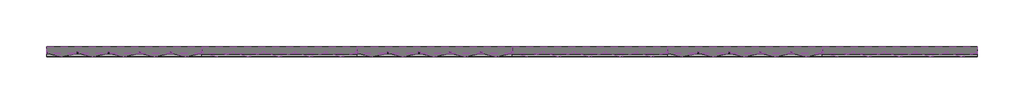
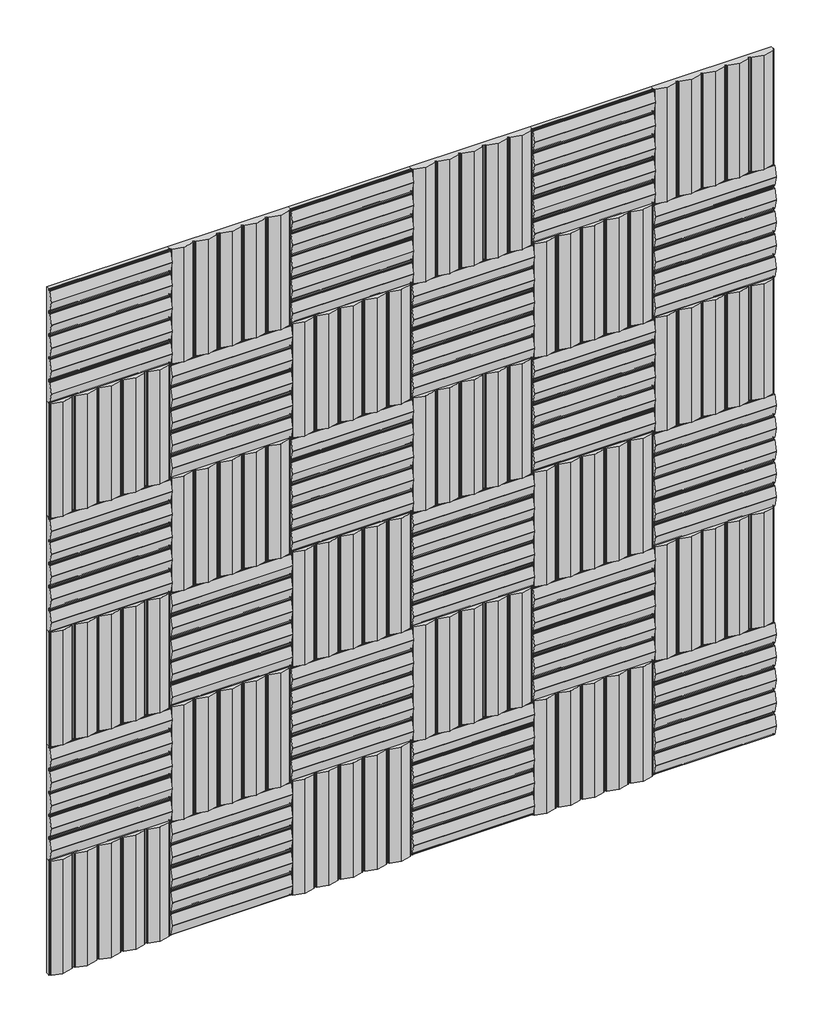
# One storey: 36 proxies.
"""IFC4 building model written with IfcOpenShell, lengths in millimetres."""

from ifc_helpers import new_model, si_unit, origin, place, context, project, spatial, transform, mapped, element, save
from components import specialty_equipment_52cbe585

model = new_model("IFC4")

# Units and contexts
model_context = context("Model", 3, world=origin())
ifc_project = project(units=[si_unit("LENGTHUNIT", "METRE", prefix="MILLI")], contexts=[model_context])

# Site, building, storey
site = spatial("IfcSite", under=ifc_project)
building = spatial("IfcBuilding", under=site)
storey = spatial("IfcBuildingStorey", under=building, Name="Nível 1", Elevation=0.0)

# Proxies
placement = place(None, origin())
specialty_equipment_shape = specialty_equipment_52cbe585(model_context)
element("IfcBuildingElementProxy", 1, Name="Spinneybeck_Porto 2 : Porto 2", ObjectType="Spinneybeck_Porto 2 : Porto 2", at=placement, inside=storey, context=model_context, shape_type="MappedRepresentation", body=[
    mapped(specialty_equipment_shape, transform((-6208.1950363, 552.5357437, 203.2), x_axis=(1.0, 0.0, 0.0), y_axis=(0.0, 0.0, 1.0), z_axis=(0.0, -1.0, 0.0))),
])
element("IfcBuildingElementProxy", 2, Name="Spinneybeck_Porto 2 : Porto 2", ObjectType="Spinneybeck_Porto 2 : Porto 2", at=placement, inside=storey, context=model_context, shape_type="MappedRepresentation", body=[
    mapped(specialty_equipment_shape, transform((-6208.1950363, 552.5357437, 609.6), x_axis=(0.0, 0.0, 1.0), y_axis=(-1.0, 0.0, 0.0), z_axis=(0.0, -1.0, 0.0))),
])
element("IfcBuildingElementProxy", 3, Name="Spinneybeck_Porto 2 : Porto 2", ObjectType="Spinneybeck_Porto 2 : Porto 2", at=placement, inside=storey, context=model_context, shape_type="MappedRepresentation", body=[
    mapped(specialty_equipment_shape, transform((-6208.1950363, 552.5357437, 1016.0), x_axis=(1.0, 0.0, 0.0), y_axis=(0.0, 0.0, 1.0), z_axis=(0.0, -1.0, 0.0))),
])
element("IfcBuildingElementProxy", 4, Name="Spinneybeck_Porto 2 : Porto 2", ObjectType="Spinneybeck_Porto 2 : Porto 2", at=placement, inside=storey, context=model_context, shape_type="MappedRepresentation", body=[
    mapped(specialty_equipment_shape, transform((-6208.1950363, 552.5357437, 1422.4), x_axis=(0.0, 0.0, 1.0), y_axis=(-1.0, 0.0, 0.0), z_axis=(0.0, -1.0, 0.0))),
])
element("IfcBuildingElementProxy", 5, Name="Spinneybeck_Porto 2 : Porto 2", ObjectType="Spinneybeck_Porto 2 : Porto 2", at=placement, inside=storey, context=model_context, shape_type="MappedRepresentation", body=[
    mapped(specialty_equipment_shape, transform((-6208.1950363, 552.5357437, 1828.8), x_axis=(1.0, 0.0, 0.0), y_axis=(0.0, 0.0, 1.0), z_axis=(0.0, -1.0, 0.0))),
])
element("IfcBuildingElementProxy", 6, Name="Spinneybeck_Porto 2 : Porto 2", ObjectType="Spinneybeck_Porto 2 : Porto 2", at=placement, inside=storey, context=model_context, shape_type="MappedRepresentation", body=[
    mapped(specialty_equipment_shape, transform((-6208.1950363, 552.5357437, 2235.2), x_axis=(0.0, 0.0, 1.0), y_axis=(-1.0, 0.0, 0.0), z_axis=(0.0, -1.0, 0.0))),
])
element("IfcBuildingElementProxy", 7, Name="Spinneybeck_Porto 2 : Porto 2", ObjectType="Spinneybeck_Porto 2 : Porto 2", at=placement, inside=storey, context=model_context, shape_type="MappedRepresentation", body=[
    mapped(specialty_equipment_shape, transform((-5801.7950363, 552.5357437, 203.2), x_axis=(0.0, 0.0, 1.0), y_axis=(-1.0, 0.0, 0.0), z_axis=(0.0, -1.0, 0.0))),
])
element("IfcBuildingElementProxy", 8, Name="Spinneybeck_Porto 2 : Porto 2", ObjectType="Spinneybeck_Porto 2 : Porto 2", at=placement, inside=storey, context=model_context, shape_type="MappedRepresentation", body=[
    mapped(specialty_equipment_shape, transform((-5801.7950363, 552.5357437, 609.6), x_axis=(1.0, 0.0, 0.0), y_axis=(0.0, 0.0, 1.0), z_axis=(0.0, -1.0, 0.0))),
])
element("IfcBuildingElementProxy", 9, Name="Spinneybeck_Porto 2 : Porto 2", ObjectType="Spinneybeck_Porto 2 : Porto 2", at=placement, inside=storey, context=model_context, shape_type="MappedRepresentation", body=[
    mapped(specialty_equipment_shape, transform((-5801.7950363, 552.5357437, 1016.0), x_axis=(0.0, 0.0, 1.0), y_axis=(-1.0, 0.0, 0.0), z_axis=(0.0, -1.0, 0.0))),
])
element("IfcBuildingElementProxy", 10, Name="Spinneybeck_Porto 2 : Porto 2", ObjectType="Spinneybeck_Porto 2 : Porto 2", at=placement, inside=storey, context=model_context, shape_type="MappedRepresentation", body=[
    mapped(specialty_equipment_shape, transform((-5801.7950363, 552.5357437, 1422.4), x_axis=(1.0, 0.0, 0.0), y_axis=(0.0, 0.0, 1.0), z_axis=(0.0, -1.0, 0.0))),
])
element("IfcBuildingElementProxy", 11, Name="Spinneybeck_Porto 2 : Porto 2", ObjectType="Spinneybeck_Porto 2 : Porto 2", at=placement, inside=storey, context=model_context, shape_type="MappedRepresentation", body=[
    mapped(specialty_equipment_shape, transform((-5801.7950363, 552.5357437, 1828.8), x_axis=(0.0, 0.0, 1.0), y_axis=(-1.0, 0.0, 0.0), z_axis=(0.0, -1.0, 0.0))),
])
element("IfcBuildingElementProxy", 12, Name="Spinneybeck_Porto 2 : Porto 2", ObjectType="Spinneybeck_Porto 2 : Porto 2", at=placement, inside=storey, context=model_context, shape_type="MappedRepresentation", body=[
    mapped(specialty_equipment_shape, transform((-5801.7950363, 552.5357437, 2235.2), x_axis=(1.0, 0.0, 0.0), y_axis=(0.0, 0.0, 1.0), z_axis=(0.0, -1.0, 0.0))),
])
element("IfcBuildingElementProxy", 13, Name="Spinneybeck_Porto 2 : Porto 2", ObjectType="Spinneybeck_Porto 2 : Porto 2", at=placement, inside=storey, context=model_context, shape_type="MappedRepresentation", body=[
    mapped(specialty_equipment_shape, transform((-5395.3950363, 552.5357437, 203.2), x_axis=(1.0, 0.0, 0.0), y_axis=(0.0, 0.0, 1.0), z_axis=(0.0, -1.0, 0.0))),
])
element("IfcBuildingElementProxy", 14, Name="Spinneybeck_Porto 2 : Porto 2", ObjectType="Spinneybeck_Porto 2 : Porto 2", at=placement, inside=storey, context=model_context, shape_type="MappedRepresentation", body=[
    mapped(specialty_equipment_shape, transform((-5395.3950363, 552.5357437, 609.6), x_axis=(0.0, 0.0, 1.0), y_axis=(-1.0, 0.0, 0.0), z_axis=(0.0, -1.0, 0.0))),
])
element("IfcBuildingElementProxy", 15, Name="Spinneybeck_Porto 2 : Porto 2", ObjectType="Spinneybeck_Porto 2 : Porto 2", at=placement, inside=storey, context=model_context, shape_type="MappedRepresentation", body=[
    mapped(specialty_equipment_shape, transform((-5395.3950363, 552.5357437, 1016.0), x_axis=(1.0, 0.0, 0.0), y_axis=(0.0, 0.0, 1.0), z_axis=(0.0, -1.0, 0.0))),
])
element("IfcBuildingElementProxy", 16, Name="Spinneybeck_Porto 2 : Porto 2", ObjectType="Spinneybeck_Porto 2 : Porto 2", at=placement, inside=storey, context=model_context, shape_type="MappedRepresentation", body=[
    mapped(specialty_equipment_shape, transform((-5395.3950363, 552.5357437, 1422.4), x_axis=(0.0, 0.0, 1.0), y_axis=(-1.0, 0.0, 0.0), z_axis=(0.0, -1.0, 0.0))),
])
element("IfcBuildingElementProxy", 17, Name="Spinneybeck_Porto 2 : Porto 2", ObjectType="Spinneybeck_Porto 2 : Porto 2", at=placement, inside=storey, context=model_context, shape_type="MappedRepresentation", body=[
    mapped(specialty_equipment_shape, transform((-5395.3950363, 552.5357437, 1828.8), x_axis=(1.0, 0.0, 0.0), y_axis=(0.0, 0.0, 1.0), z_axis=(0.0, -1.0, 0.0))),
])
element("IfcBuildingElementProxy", 18, Name="Spinneybeck_Porto 2 : Porto 2", ObjectType="Spinneybeck_Porto 2 : Porto 2", at=placement, inside=storey, context=model_context, shape_type="MappedRepresentation", body=[
    mapped(specialty_equipment_shape, transform((-5395.3950363, 552.5357437, 2235.2), x_axis=(0.0, 0.0, 1.0), y_axis=(-1.0, 0.0, 0.0), z_axis=(0.0, -1.0, 0.0))),
])
element("IfcBuildingElementProxy", 19, Name="Spinneybeck_Porto 2 : Porto 2", ObjectType="Spinneybeck_Porto 2 : Porto 2", at=placement, inside=storey, context=model_context, shape_type="MappedRepresentation", body=[
    mapped(specialty_equipment_shape, transform((-4988.9950363, 552.5357437, 203.2), x_axis=(0.0, 0.0, 1.0), y_axis=(-1.0, 0.0, 0.0), z_axis=(0.0, -1.0, 0.0))),
])
element("IfcBuildingElementProxy", 20, Name="Spinneybeck_Porto 2 : Porto 2", ObjectType="Spinneybeck_Porto 2 : Porto 2", at=placement, inside=storey, context=model_context, shape_type="MappedRepresentation", body=[
    mapped(specialty_equipment_shape, transform((-4988.9950363, 552.5357437, 609.6), x_axis=(1.0, 0.0, 0.0), y_axis=(0.0, 0.0, 1.0), z_axis=(0.0, -1.0, 0.0))),
])
element("IfcBuildingElementProxy", 21, Name="Spinneybeck_Porto 2 : Porto 2", ObjectType="Spinneybeck_Porto 2 : Porto 2", at=placement, inside=storey, context=model_context, shape_type="MappedRepresentation", body=[
    mapped(specialty_equipment_shape, transform((-4988.9950363, 552.5357437, 1016.0), x_axis=(0.0, 0.0, 1.0), y_axis=(-1.0, 0.0, 0.0), z_axis=(0.0, -1.0, 0.0))),
])
element("IfcBuildingElementProxy", 22, Name="Spinneybeck_Porto 2 : Porto 2", ObjectType="Spinneybeck_Porto 2 : Porto 2", at=placement, inside=storey, context=model_context, shape_type="MappedRepresentation", body=[
    mapped(specialty_equipment_shape, transform((-4988.9950363, 552.5357437, 1422.4), x_axis=(1.0, 0.0, 0.0), y_axis=(0.0, 0.0, 1.0), z_axis=(0.0, -1.0, 0.0))),
])
element("IfcBuildingElementProxy", 23, Name="Spinneybeck_Porto 2 : Porto 2", ObjectType="Spinneybeck_Porto 2 : Porto 2", at=placement, inside=storey, context=model_context, shape_type="MappedRepresentation", body=[
    mapped(specialty_equipment_shape, transform((-4988.9950363, 552.5357437, 1828.8), x_axis=(0.0, 0.0, 1.0), y_axis=(-1.0, 0.0, 0.0), z_axis=(0.0, -1.0, 0.0))),
])
element("IfcBuildingElementProxy", 24, Name="Spinneybeck_Porto 2 : Porto 2", ObjectType="Spinneybeck_Porto 2 : Porto 2", at=placement, inside=storey, context=model_context, shape_type="MappedRepresentation", body=[
    mapped(specialty_equipment_shape, transform((-4988.9950363, 552.5357437, 2235.2), x_axis=(1.0, 0.0, 0.0), y_axis=(0.0, 0.0, 1.0), z_axis=(0.0, -1.0, 0.0))),
])
element("IfcBuildingElementProxy", 25, Name="Spinneybeck_Porto 2 : Porto 2", ObjectType="Spinneybeck_Porto 2 : Porto 2", at=placement, inside=storey, context=model_context, shape_type="MappedRepresentation", body=[
    mapped(specialty_equipment_shape, transform((-4582.5950363, 552.5357437, 203.2), x_axis=(1.0, 0.0, 0.0), y_axis=(0.0, 0.0, 1.0), z_axis=(0.0, -1.0, 0.0))),
])
element("IfcBuildingElementProxy", 26, Name="Spinneybeck_Porto 2 : Porto 2", ObjectType="Spinneybeck_Porto 2 : Porto 2", at=placement, inside=storey, context=model_context, shape_type="MappedRepresentation", body=[
    mapped(specialty_equipment_shape, transform((-4582.5950363, 552.5357437, 609.6), x_axis=(0.0, 0.0, 1.0), y_axis=(-1.0, 0.0, 0.0), z_axis=(0.0, -1.0, 0.0))),
])
element("IfcBuildingElementProxy", 27, Name="Spinneybeck_Porto 2 : Porto 2", ObjectType="Spinneybeck_Porto 2 : Porto 2", at=placement, inside=storey, context=model_context, shape_type="MappedRepresentation", body=[
    mapped(specialty_equipment_shape, transform((-4582.5950363, 552.5357437, 1016.0), x_axis=(1.0, 0.0, 0.0), y_axis=(0.0, 0.0, 1.0), z_axis=(0.0, -1.0, 0.0))),
])
element("IfcBuildingElementProxy", 28, Name="Spinneybeck_Porto 2 : Porto 2", ObjectType="Spinneybeck_Porto 2 : Porto 2", at=placement, inside=storey, context=model_context, shape_type="MappedRepresentation", body=[
    mapped(specialty_equipment_shape, transform((-4582.5950363, 552.5357437, 1422.4), x_axis=(0.0, 0.0, 1.0), y_axis=(-1.0, 0.0, 0.0), z_axis=(0.0, -1.0, 0.0))),
])
element("IfcBuildingElementProxy", 29, Name="Spinneybeck_Porto 2 : Porto 2", ObjectType="Spinneybeck_Porto 2 : Porto 2", at=placement, inside=storey, context=model_context, shape_type="MappedRepresentation", body=[
    mapped(specialty_equipment_shape, transform((-4582.5950363, 552.5357437, 1828.8), x_axis=(1.0, 0.0, 0.0), y_axis=(0.0, 0.0, 1.0), z_axis=(0.0, -1.0, 0.0))),
])
element("IfcBuildingElementProxy", 30, Name="Spinneybeck_Porto 2 : Porto 2", ObjectType="Spinneybeck_Porto 2 : Porto 2", at=placement, inside=storey, context=model_context, shape_type="MappedRepresentation", body=[
    mapped(specialty_equipment_shape, transform((-4582.5950363, 552.5357437, 2235.2), x_axis=(0.0, 0.0, 1.0), y_axis=(-1.0, 0.0, 0.0), z_axis=(0.0, -1.0, 0.0))),
])
element("IfcBuildingElementProxy", 31, Name="Spinneybeck_Porto 2 : Porto 2", ObjectType="Spinneybeck_Porto 2 : Porto 2", at=placement, inside=storey, context=model_context, shape_type="MappedRepresentation", body=[
    mapped(specialty_equipment_shape, transform((-4176.1950363, 552.5357437, 203.2), x_axis=(0.0, 0.0, 1.0), y_axis=(-1.0, 0.0, 0.0), z_axis=(0.0, -1.0, 0.0))),
])
element("IfcBuildingElementProxy", 32, Name="Spinneybeck_Porto 2 : Porto 2", ObjectType="Spinneybeck_Porto 2 : Porto 2", at=placement, inside=storey, context=model_context, shape_type="MappedRepresentation", body=[
    mapped(specialty_equipment_shape, transform((-4176.1950363, 552.5357437, 609.6), x_axis=(1.0, 0.0, 0.0), y_axis=(0.0, 0.0, 1.0), z_axis=(0.0, -1.0, 0.0))),
])
element("IfcBuildingElementProxy", 33, Name="Spinneybeck_Porto 2 : Porto 2", ObjectType="Spinneybeck_Porto 2 : Porto 2", at=placement, inside=storey, context=model_context, shape_type="MappedRepresentation", body=[
    mapped(specialty_equipment_shape, transform((-4176.1950363, 552.5357437, 1016.0), x_axis=(0.0, 0.0, 1.0), y_axis=(-1.0, 0.0, 0.0), z_axis=(0.0, -1.0, 0.0))),
])
element("IfcBuildingElementProxy", 34, Name="Spinneybeck_Porto 2 : Porto 2", ObjectType="Spinneybeck_Porto 2 : Porto 2", at=placement, inside=storey, context=model_context, shape_type="MappedRepresentation", body=[
    mapped(specialty_equipment_shape, transform((-4176.1950363, 552.5357437, 1422.4), x_axis=(1.0, 0.0, 0.0), y_axis=(0.0, 0.0, 1.0), z_axis=(0.0, -1.0, 0.0))),
])
element("IfcBuildingElementProxy", 35, Name="Spinneybeck_Porto 2 : Porto 2", ObjectType="Spinneybeck_Porto 2 : Porto 2", at=placement, inside=storey, context=model_context, shape_type="MappedRepresentation", body=[
    mapped(specialty_equipment_shape, transform((-4176.1950363, 552.5357437, 1828.8), x_axis=(0.0, 0.0, 1.0), y_axis=(-1.0, 0.0, 0.0), z_axis=(0.0, -1.0, 0.0))),
])
element("IfcBuildingElementProxy", 36, Name="Spinneybeck_Porto 2 : Porto 2", ObjectType="Spinneybeck_Porto 2 : Porto 2", at=placement, inside=storey, context=model_context, shape_type="MappedRepresentation", body=[
    mapped(specialty_equipment_shape, transform((-4176.1950363, 552.5357437, 2235.2), x_axis=(1.0, 0.0, 0.0), y_axis=(0.0, 0.0, 1.0), z_axis=(0.0, -1.0, 0.0))),
])

save(model, "model.ifc")
